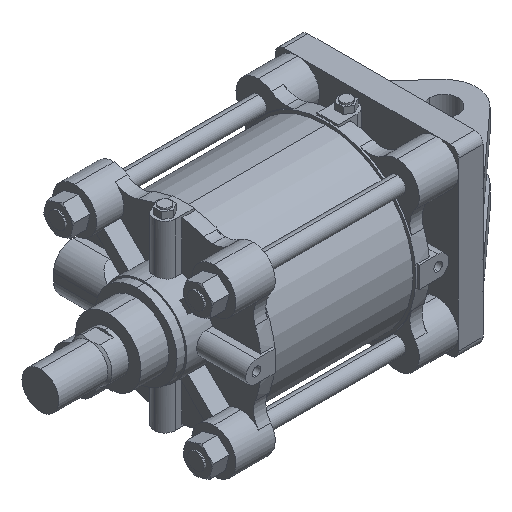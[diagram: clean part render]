
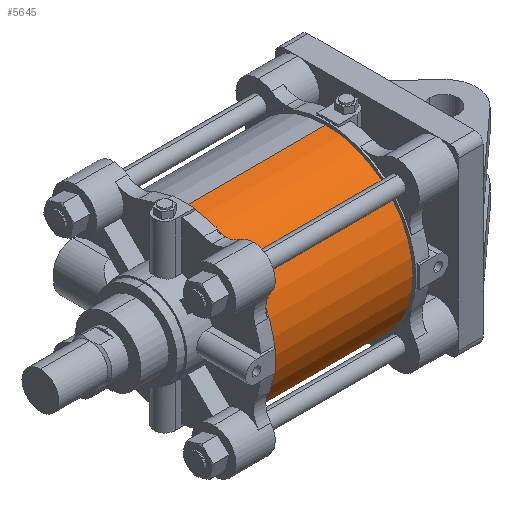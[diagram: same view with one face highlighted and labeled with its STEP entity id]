
A CAD part, isometric view. The second image highlights one B-rep face of the part: STEP entity #5645.
In plain terms, the highlighted cylindrical face has radius 106.5 mm (diameter 213 mm), a partial arc.
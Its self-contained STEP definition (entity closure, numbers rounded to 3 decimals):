
#808 = CARTESIAN_POINT ( 'NONE',  ( 86., 0., 106.5 ) ) ;
#927 = CARTESIAN_POINT ( 'NONE',  ( 86., 0., -106.5 ) ) ;
#1688 = FACE_OUTER_BOUND ( 'NONE', #10720, .T. ) ;
#1748 = AXIS2_PLACEMENT_3D ( 'NONE', #7921, #5991, #3088 ) ;
#2635 = VERTEX_POINT ( 'NONE', #927 ) ;
#2886 = VERTEX_POINT ( 'NONE', #10409 ) ;
#2925 = VECTOR ( 'NONE', #10038, 1000. ) ;
#3053 = LINE ( 'NONE', #7372, #5286 ) ;
#3087 = LINE ( 'NONE', #808, #2925 ) ;
#3088 = DIRECTION ( 'NONE',  ( 0., 0., 1. ) ) ;
#3151 = DIRECTION ( 'NONE',  ( 1., 0., 0. ) ) ;
#3293 = CIRCLE ( 'NONE', #6973, 106.5 ) ;
#3310 = EDGE_CURVE ( 'NONE', #8430, #8777, #3293, .T. ) ;
#4230 = CARTESIAN_POINT ( 'NONE',  ( -86., 0., 0. ) ) ;
#4347 = CYLINDRICAL_SURFACE ( 'NONE', #1748, 106.5 ) ;
#4366 = ORIENTED_EDGE ( 'NONE', *, *, #3310, .T. ) ;
#4772 = CARTESIAN_POINT ( 'NONE',  ( 86., 0., 0. ) ) ;
#4960 = DIRECTION ( 'NONE',  ( 1., 0., 0. ) ) ;
#5037 = EDGE_CURVE ( 'NONE', #2886, #8430, #3087, .T. ) ;
#5286 = VECTOR ( 'NONE', #7195, 1000. ) ;
#5568 = EDGE_CURVE ( 'NONE', #2886, #2635, #7682, .T. ) ;
#5645 = ADVANCED_FACE ( 'NONE', ( #1688 ), #4347, .T. ) ;
#5852 = CARTESIAN_POINT ( 'NONE',  ( -86., 0., -106.5 ) ) ;
#5991 = DIRECTION ( 'NONE',  ( -1., 0., 0. ) ) ;
#6973 = AXIS2_PLACEMENT_3D ( 'NONE', #4230, #3151, #9407 ) ;
#7195 = DIRECTION ( 'NONE',  ( -1., 0., 0. ) ) ;
#7372 = CARTESIAN_POINT ( 'NONE',  ( 86., 0., -106.5 ) ) ;
#7682 = CIRCLE ( 'NONE', #8674, 106.5 ) ;
#7921 = CARTESIAN_POINT ( 'NONE',  ( 86., 0., 0. ) ) ;
#8430 = VERTEX_POINT ( 'NONE', #9784 ) ;
#8674 = AXIS2_PLACEMENT_3D ( 'NONE', #4772, #4960, #9047 ) ;
#8690 = EDGE_CURVE ( 'NONE', #2635, #8777, #3053, .T. ) ;
#8741 = ORIENTED_EDGE ( 'NONE', *, *, #5568, .F. ) ;
#8777 = VERTEX_POINT ( 'NONE', #5852 ) ;
#9047 = DIRECTION ( 'NONE',  ( 0., 0., -1. ) ) ;
#9288 = ORIENTED_EDGE ( 'NONE', *, *, #8690, .F. ) ;
#9407 = DIRECTION ( 'NONE',  ( 0., 0., -1. ) ) ;
#9784 = CARTESIAN_POINT ( 'NONE',  ( -86., 0., 106.5 ) ) ;
#10038 = DIRECTION ( 'NONE',  ( -1., 0., 0. ) ) ;
#10352 = ORIENTED_EDGE ( 'NONE', *, *, #5037, .T. ) ;
#10409 = CARTESIAN_POINT ( 'NONE',  ( 86., 0., 106.5 ) ) ;
#10720 = EDGE_LOOP ( 'NONE', ( #9288, #8741, #10352, #4366 ) ) ;
